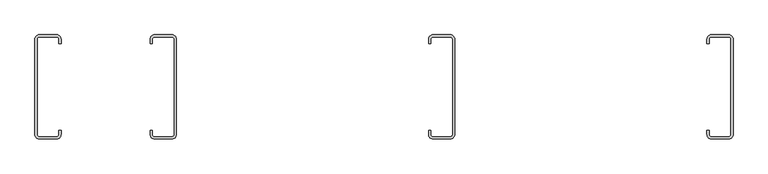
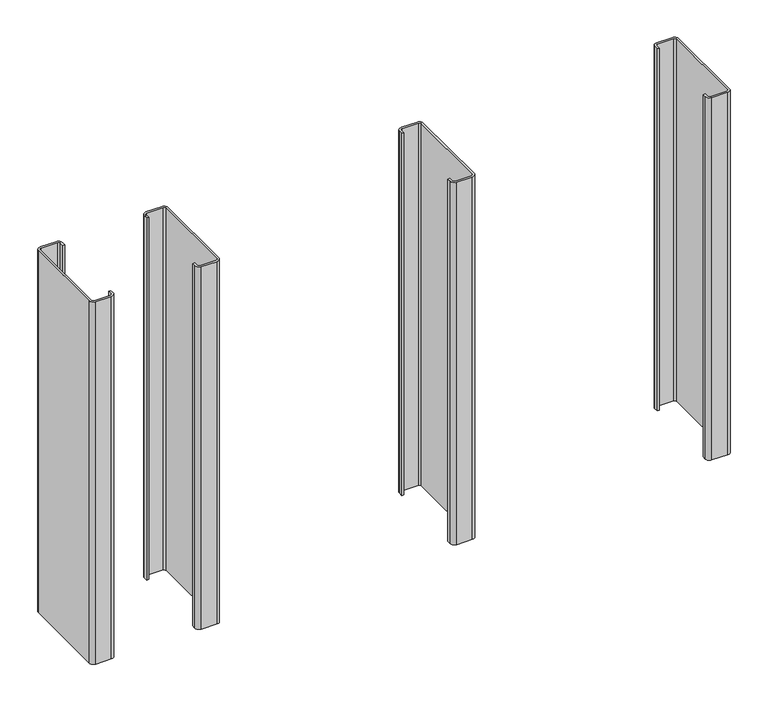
"""IFC4 building model written with IfcOpenShell, lengths in millimetres: proxy geometry, Durabond Generic Model Metal Stud Array Right : CRAi Generic Model Metal Stud Array."""

import ifcopenshell
import ifcopenshell.guid

model = None  # the IFC model being written
_history = None  # IfcOwnerHistory: only IFC2X3 demands one
_inside = {}  # id of a spatial element -> (the spatial element, [elements in it])
_under = {}  # id of a project, library or spatial element -> (it, [spatial elements below it])
_declared = {}  # id of a project -> (the project, [libraries it declares])
_typed = {}  # id of a type object -> (the type object, [elements of that type])
_made_of = {}  # id of a material, layer set ... -> (it, [elements and type objects made of it])


def new_model(schema):
    """Start an empty IFC model of exactly this schema.

    Asked for "IFC4X3", IfcOpenShell would pick the latest addendum, in which some entities
    have other attributes; the version numbers below select the first issue.
    IFC2X3 requires an IfcOwnerHistory on every rooted entity: one is made here for all.
    """
    global model, _history
    if schema == "IFC4X3":
        model = ifcopenshell.file(schema_version=(4, 3, 0, 0))
    else:
        model = ifcopenshell.file(schema=schema)
    _inside.clear()
    _under.clear()
    _declared.clear()
    _typed.clear()
    _made_of.clear()
    _history = None
    if model.schema == "IFC2X3":
        org = make("IfcOrganization", Name="unknown")
        user = make(
            "IfcPersonAndOrganization",
            ThePerson=make("IfcPerson", FamilyName="unknown"),
            TheOrganization=org,
        )
        app = make(
            "IfcApplication",
            ApplicationDeveloper=org,
            Version="unknown",
            ApplicationFullName="unknown",
            ApplicationIdentifier="unknown",
        )
        _history = make(
            "IfcOwnerHistory",
            OwningUser=user,
            OwningApplication=app,
            ChangeAction="ADDED",
            CreationDate=0,
        )
    return model


def make(cls, **values):
    """One entity of the class cls with the attributes given. An attribute that is None is left unset."""
    return model.create_entity(
        cls, **{name: value for name, value in values.items() if value is not None}
    )


def rooted(cls, **values):
    """An entity with a GlobalId (a new one), such as an element, a storey or a relation."""
    return make(cls, GlobalId=ifcopenshell.guid.new(), OwnerHistory=_history, **values)


def si_unit(unit_type, name, prefix=None):
    """IfcSIUnit, for example si_unit("LENGTHUNIT", "METRE", prefix="MILLI")."""
    return make("IfcSIUnit", UnitType=unit_type, Prefix=prefix, Name=name)


def assignment(units):
    """IfcUnitAssignment: the units of a project."""
    return None if units is None else make("IfcUnitAssignment", Units=units)


def point(xyz):
    """IfcCartesianPoint."""
    return None if xyz is None else make("IfcCartesianPoint", Coordinates=xyz)


def direction(xyz):
    """IfcDirection."""
    return None if xyz is None else make("IfcDirection", DirectionRatios=xyz)


def frame(location, z_axis=None, x_axis=None):
    """IfcAxis2Placement3D, a coordinate frame: its origin and axes. An axis left out is left unset."""
    return make(
        "IfcAxis2Placement3D",
        Location=point(location),
        Axis=direction(z_axis),
        RefDirection=direction(x_axis),
    )


def frame_2d(location, x_axis=None):
    """IfcAxis2Placement2D, a coordinate frame in the plane: its origin and x axis."""
    return make(
        "IfcAxis2Placement2D", Location=point(location), RefDirection=direction(x_axis)
    )


def origin():
    """The frame at (0, 0, 0) with its axes left unset."""
    return frame((0.0, 0.0, 0.0))


def origin_with_axes():
    """The frame at (0, 0, 0) with the z axis (0, 0, 1) and the x axis (1, 0, 0) written out."""
    return frame((0.0, 0.0, 0.0), z_axis=(0.0, 0.0, 1.0), x_axis=(1.0, 0.0, 0.0))


def place(relative_to, where):
    """IfcLocalPlacement: puts the frame where relative to a parent placement (None: the world)."""
    return make(
        "IfcLocalPlacement", PlacementRelTo=relative_to, RelativePlacement=where
    )


def context(
    kind, dimensions, precision=None, world=None, true_north=None, identifier=None
):
    """IfcGeometricRepresentationContext, for example the 3D "Model" context."""
    return make(
        "IfcGeometricRepresentationContext",
        ContextIdentifier=identifier,
        ContextType=kind,
        CoordinateSpaceDimension=dimensions,
        Precision=precision,
        WorldCoordinateSystem=world,
        TrueNorth=true_north,
    )


def project(units=None, contexts=None):
    """IfcProject with its units and contexts."""
    return rooted(
        "IfcProject",
        Name="project",
        RepresentationContexts=contexts,
        UnitsInContext=assignment(units),
    )


def spatial(cls, under=None, at=None, **own):
    """A site, building, storey or space (cls), placed at a placement, below another one or the project."""
    s = rooted(cls, ObjectPlacement=at, **own)
    if under is not None:
        _under.setdefault(under.id(), (under, []))[1].append(s)
    return s


def polyline(points):
    """IfcPolyline through the points."""
    return make("IfcPolyline", Points=[point(p) for p in points])


def circle_curve(where, radius):
    """IfcCircle in the frame where."""
    return make("IfcCircle", Position=where, Radius=radius)


def trimmed(basis, trim1, trim2, sense, master):
    """IfcTrimmedCurve: the piece of a basis curve between two trims."""
    return make(
        "IfcTrimmedCurve",
        BasisCurve=basis,
        Trim1=trim1,
        Trim2=trim2,
        SenseAgreement=sense,
        MasterRepresentation=master,
    )


def segment(curve, same_sense, transition):
    """IfcCompositeCurveSegment."""
    return make(
        "IfcCompositeCurveSegment",
        Transition=transition,
        SameSense=same_sense,
        ParentCurve=curve,
    )


def composite_curve(segments, self_intersect=None):
    """IfcCompositeCurve: segments joined end to end."""
    return make("IfcCompositeCurve", Segments=segments, SelfIntersect=self_intersect)


def outline(outer, holes=None, kind="AREA"):
    """IfcArbitraryClosedProfileDef: a profile drawn as a closed curve; with holes, ...WithVoids."""
    if holes is None:
        return make("IfcArbitraryClosedProfileDef", ProfileType=kind, OuterCurve=outer)
    return make(
        "IfcArbitraryProfileDefWithVoids",
        ProfileType=kind,
        OuterCurve=outer,
        InnerCurves=holes,
    )


def extrude(swept, where, along, depth):
    """IfcExtrudedAreaSolid: the profile swept, set in the frame where, extruded along a direction by depth."""
    return make(
        "IfcExtrudedAreaSolid",
        SweptArea=swept,
        Position=where,
        ExtrudedDirection=direction(along),
        Depth=depth,
    )


def shape(context_of_items, identifier, shape_type, items):
    """IfcShapeRepresentation: the items that make up one representation, for example the "Body"."""
    return make(
        "IfcShapeRepresentation",
        ContextOfItems=context_of_items,
        RepresentationIdentifier=identifier,
        RepresentationType=shape_type,
        Items=items,
    )


def source(mapping_origin, context_of_items, identifier, shape_type, items):
    """IfcRepresentationMap: a shape defined once, which mapped items show again and again."""
    return make(
        "IfcRepresentationMap",
        MappingOrigin=mapping_origin,
        MappedRepresentation=shape(context_of_items, identifier, shape_type, items),
    )


def transform(
    local_origin,
    x_axis=None,
    y_axis=None,
    z_axis=None,
    scale=None,
    scale2=None,
    scale3=None,
    uniform=True,
):
    """IfcCartesianTransformationOperator3D, or its non-uniform kind. x_axis, y_axis, z_axis: its Axis1, 2, 3."""
    if uniform:
        return make(
            "IfcCartesianTransformationOperator3D",
            Axis1=direction(x_axis),
            Axis2=direction(y_axis),
            LocalOrigin=point(local_origin),
            Scale=scale,
            Axis3=direction(z_axis),
        )
    return make(
        "IfcCartesianTransformationOperator3DnonUniform",
        Axis1=direction(x_axis),
        Axis2=direction(y_axis),
        LocalOrigin=point(local_origin),
        Scale=scale,
        Axis3=direction(z_axis),
        Scale2=scale2,
        Scale3=scale3,
    )


def mapped(mapping_source, mapping_target):
    """IfcMappedItem: shows the shape of a source again, moved by a transform."""
    return make(
        "IfcMappedItem", MappingSource=mapping_source, MappingTarget=mapping_target
    )


def made_of(thing, what):
    """Note that an element or type object is made of a material, layer set ...; save() writes the relation."""
    if what is not None:
        _made_of.setdefault(what.id(), (what, []))[1].append(thing)
    return thing


def element(
    cls,
    number,
    at=None,
    inside=None,
    cuts=None,
    type_object=None,
    material=None,
    context=None,
    identifier="Body",
    shape_type=None,
    held_by="IfcProductDefinitionShape",
    body=None,
    shapes=None,
    **own,
):
    """One element of the class cls, such as IfcWall. Its Tag is "e" and its number.

    at: its placement. inside: the storey or other place that contains it. cuts: it is an
    opening in that element (IfcRelVoidsElement). A single representation is given by context,
    identifier, shape_type and body (its items); several are given by shapes. held_by: the class
    of the entity that holds the representations. save() writes the other relations.
    """
    e = rooted(cls, Tag="e%d" % number, ObjectPlacement=at, **own)
    if body is not None:
        shapes = [shape(context, identifier, shape_type, body)]
    if shapes is not None:
        e.Representation = make(held_by, Representations=shapes)
    if inside is not None:
        _inside.setdefault(inside.id(), (inside, []))[1].append(e)
    if cuts is not None:
        rooted(
            "IfcRelVoidsElement", RelatingBuildingElement=cuts, RelatedOpeningElement=e
        )
    if type_object is not None:
        _typed.setdefault(type_object.id(), (type_object, []))[1].append(e)
    return made_of(e, material)


def aggregate(whole, parts):
    """IfcRelAggregates: a whole, such as a stair, and the parts it consists of."""
    return rooted("IfcRelAggregates", RelatingObject=whole, RelatedObjects=parts)


def save(model, path):
    """Write the relations noted so far, then the file.

    IfcRelAggregates (storeys below a building ...), IfcRelContainedInSpatialStructure (elements
    in a storey), IfcRelDefinesByType, IfcRelAssociatesMaterial and IfcRelDeclares: one each for
    every whole, place, type object, material and project.
    """
    for whole, parts in _under.values():
        aggregate(whole, parts)
    for where, things in _inside.values():
        rooted(
            "IfcRelContainedInSpatialStructure",
            RelatedElements=things,
            RelatingStructure=where,
        )
    for kind, things in _typed.values():
        rooted("IfcRelDefinesByType", RelatedObjects=things, RelatingType=kind)
    for what, things in _made_of.values():
        rooted("IfcRelAssociatesMaterial", RelatedObjects=things, RelatingMaterial=what)
    for by, libraries in _declared.values():
        rooted("IfcRelDeclares", RelatingContext=by, RelatedDefinitions=libraries)
    model.write(path)


def generic_models_b823fbf1(model_context):
    return source(origin(), model_context, "Body", "SweptSolid", [
        extrude(outline(composite_curve([segment(polyline([(1617.675, -63.5), (1620.85, -63.5), (1620.85, -70.2679713)]), True, "CONTINUOUS"), segment(trimmed(circle_curve(frame_2d((1624.025, -69.85)), 3.2023936), [point((1620.85, -70.2679713))], [point((1623.6070287, -73.025))], True, "CARTESIAN"), True, "CONTINUOUS"), segment(polyline([(1623.6070287, -73.025), (1649.8429713, -73.025)]), True, "CONTINUOUS"), segment(trimmed(circle_curve(frame_2d((1649.425, -69.85)), 3.2023936), [point((1649.8429713, -73.025))], [point((1652.6, -70.2679713))], True, "CARTESIAN"), True, "CONTINUOUS"), segment(polyline([(1652.6, -70.2679713), (1652.6, 70.2679713)]), True, "CONTINUOUS"), segment(trimmed(circle_curve(frame_2d((1649.425, 69.85)), 3.2023936), [point((1652.6, 70.2679713))], [point((1649.8429713, 73.025))], True, "CARTESIAN"), True, "CONTINUOUS"), segment(polyline([(1649.8429713, 73.025), (1623.6070287, 73.025)]), True, "CONTINUOUS"), segment(trimmed(circle_curve(frame_2d((1624.025, 69.85)), 3.2023936), [point((1623.6070287, 73.025))], [point((1620.85, 70.2679713))], True, "CARTESIAN"), True, "CONTINUOUS"), segment(polyline([(1620.85, 70.2679713), (1620.85, 63.5), (1617.675, 63.5), (1617.675, 69.85)]), True, "CONTINUOUS"), segment(trimmed(circle_curve(frame_2d((1624.025, 69.85)), 6.35), [point((1617.675, 69.85))], [point((1624.025, 76.2))], False, "CARTESIAN"), True, "CONTINUOUS"), segment(polyline([(1624.025, 76.2), (1649.425, 76.2)]), True, "CONTINUOUS"), segment(trimmed(circle_curve(frame_2d((1649.425, 69.85)), 6.35), [point((1649.425, 76.2))], [point((1655.775, 69.85))], False, "CARTESIAN"), True, "CONTINUOUS"), segment(polyline([(1655.775, 69.85), (1655.775, -69.85)]), True, "CONTINUOUS"), segment(trimmed(circle_curve(frame_2d((1649.425, -69.85)), 6.35), [point((1655.775, -69.85))], [point((1649.425, -76.2))], False, "CARTESIAN"), True, "CONTINUOUS"), segment(polyline([(1649.425, -76.2), (1624.025, -76.2)]), True, "CONTINUOUS"), segment(trimmed(circle_curve(frame_2d((1624.025, -69.85)), 6.35), [point((1624.025, -76.2))], [point((1617.675, -69.85))], False, "CARTESIAN"), True, "CONTINUOUS"), segment(polyline([(1617.675, -69.85), (1617.675, -63.5)]), True, "CONTINUOUS")], self_intersect=False)), origin_with_axes(), (0.0, 0.0, 1.0), 609.6),
        extrude(outline(composite_curve([segment(polyline([(2024.075, -63.5), (2027.25, -63.5), (2027.25, -70.2679713)]), True, "CONTINUOUS"), segment(trimmed(circle_curve(frame_2d((2030.425, -69.85)), 3.2023936), [point((2027.25, -70.2679713))], [point((2030.0070287, -73.025))], True, "CARTESIAN"), True, "CONTINUOUS"), segment(polyline([(2030.0070287, -73.025), (2056.2429713, -73.025)]), True, "CONTINUOUS"), segment(trimmed(circle_curve(frame_2d((2055.825, -69.85)), 3.2023936), [point((2056.2429713, -73.025))], [point((2059.0, -70.2679713))], True, "CARTESIAN"), True, "CONTINUOUS"), segment(polyline([(2059.0, -70.2679713), (2059.0, 70.2679713)]), True, "CONTINUOUS"), segment(trimmed(circle_curve(frame_2d((2055.825, 69.85)), 3.2023936), [point((2059.0, 70.2679713))], [point((2056.2429713, 73.025))], True, "CARTESIAN"), True, "CONTINUOUS"), segment(polyline([(2056.2429713, 73.025), (2030.0070287, 73.025)]), True, "CONTINUOUS"), segment(trimmed(circle_curve(frame_2d((2030.425, 69.85)), 3.2023936), [point((2030.0070287, 73.025))], [point((2027.25, 70.2679713))], True, "CARTESIAN"), True, "CONTINUOUS"), segment(polyline([(2027.25, 70.2679713), (2027.25, 63.5), (2024.075, 63.5), (2024.075, 69.85)]), True, "CONTINUOUS"), segment(trimmed(circle_curve(frame_2d((2030.425, 69.85)), 6.35), [point((2024.075, 69.85))], [point((2030.425, 76.2))], False, "CARTESIAN"), True, "CONTINUOUS"), segment(polyline([(2030.425, 76.2), (2055.825, 76.2)]), True, "CONTINUOUS"), segment(trimmed(circle_curve(frame_2d((2055.825, 69.85)), 6.35), [point((2055.825, 76.2))], [point((2062.175, 69.85))], False, "CARTESIAN"), True, "CONTINUOUS"), segment(polyline([(2062.175, 69.85), (2062.175, -69.85)]), True, "CONTINUOUS"), segment(trimmed(circle_curve(frame_2d((2055.825, -69.85)), 6.35), [point((2062.175, -69.85))], [point((2055.825, -76.2))], False, "CARTESIAN"), True, "CONTINUOUS"), segment(polyline([(2055.825, -76.2), (2030.425, -76.2)]), True, "CONTINUOUS"), segment(trimmed(circle_curve(frame_2d((2030.425, -69.85)), 6.35), [point((2030.425, -76.2))], [point((2024.075, -69.85))], False, "CARTESIAN"), True, "CONTINUOUS"), segment(polyline([(2024.075, -69.85), (2024.075, -63.5)]), True, "CONTINUOUS")], self_intersect=False)), origin_with_axes(), (0.0, 0.0, 1.0), 609.6),
        extrude(outline(composite_curve([segment(polyline([(2430.475, -63.5), (2433.65, -63.5), (2433.65, -70.2679713)]), True, "CONTINUOUS"), segment(trimmed(circle_curve(frame_2d((2436.825, -69.85)), 3.2023936), [point((2433.65, -70.2679713))], [point((2436.4070287, -73.025))], True, "CARTESIAN"), True, "CONTINUOUS"), segment(polyline([(2436.4070287, -73.025), (2462.6429713, -73.025)]), True, "CONTINUOUS"), segment(trimmed(circle_curve(frame_2d((2462.225, -69.85)), 3.2023936), [point((2462.6429713, -73.025))], [point((2465.4, -70.2679713))], True, "CARTESIAN"), True, "CONTINUOUS"), segment(polyline([(2465.4, -70.2679713), (2465.4, 70.2679713)]), True, "CONTINUOUS"), segment(trimmed(circle_curve(frame_2d((2462.225, 69.85)), 3.2023936), [point((2465.4, 70.2679713))], [point((2462.6429713, 73.025))], True, "CARTESIAN"), True, "CONTINUOUS"), segment(polyline([(2462.6429713, 73.025), (2436.4070287, 73.025)]), True, "CONTINUOUS"), segment(trimmed(circle_curve(frame_2d((2436.825, 69.85)), 3.2023936), [point((2436.4070287, 73.025))], [point((2433.65, 70.2679713))], True, "CARTESIAN"), True, "CONTINUOUS"), segment(polyline([(2433.65, 70.2679713), (2433.65, 63.5), (2430.475, 63.5), (2430.475, 69.85)]), True, "CONTINUOUS"), segment(trimmed(circle_curve(frame_2d((2436.825, 69.85)), 6.35), [point((2430.475, 69.85))], [point((2436.825, 76.2))], False, "CARTESIAN"), True, "CONTINUOUS"), segment(polyline([(2436.825, 76.2), (2462.225, 76.2)]), True, "CONTINUOUS"), segment(trimmed(circle_curve(frame_2d((2462.225, 69.85)), 6.35), [point((2462.225, 76.2))], [point((2468.575, 69.85))], False, "CARTESIAN"), True, "CONTINUOUS"), segment(polyline([(2468.575, 69.85), (2468.575, -69.85)]), True, "CONTINUOUS"), segment(trimmed(circle_curve(frame_2d((2462.225, -69.85)), 6.35), [point((2468.575, -69.85))], [point((2462.225, -76.2))], False, "CARTESIAN"), True, "CONTINUOUS"), segment(polyline([(2462.225, -76.2), (2436.825, -76.2)]), True, "CONTINUOUS"), segment(trimmed(circle_curve(frame_2d((2436.825, -69.85)), 6.35), [point((2436.825, -76.2))], [point((2430.475, -69.85))], False, "CARTESIAN"), True, "CONTINUOUS"), segment(polyline([(2430.475, -69.85), (2430.475, -63.5)]), True, "CONTINUOUS")], self_intersect=False)), origin_with_axes(), (0.0, 0.0, 1.0), 609.6),
        extrude(outline(composite_curve([segment(polyline([(1487.5, 63.5), (1484.325, 63.5), (1484.325, 70.2679713)]), True, "CONTINUOUS"), segment(trimmed(circle_curve(frame_2d((1481.15, 69.85)), 3.2023936), [point((1484.325, 70.2679713))], [point((1481.5679713, 73.025))], True, "CARTESIAN"), True, "CONTINUOUS"), segment(polyline([(1481.5679713, 73.025), (1455.3320287, 73.025)]), True, "CONTINUOUS"), segment(trimmed(circle_curve(frame_2d((1455.75, 69.85)), 3.2023936), [point((1455.3320287, 73.025))], [point((1452.575, 70.2679713))], True, "CARTESIAN"), True, "CONTINUOUS"), segment(polyline([(1452.575, 70.2679713), (1452.575, -70.2679713)]), True, "CONTINUOUS"), segment(trimmed(circle_curve(frame_2d((1455.75, -69.85)), 3.2023936), [point((1452.575, -70.2679713))], [point((1455.3320287, -73.025))], True, "CARTESIAN"), True, "CONTINUOUS"), segment(polyline([(1455.3320287, -73.025), (1481.5679713, -73.025)]), True, "CONTINUOUS"), segment(trimmed(circle_curve(frame_2d((1481.15, -69.85)), 3.2023936), [point((1481.5679713, -73.025))], [point((1484.325, -70.2679713))], True, "CARTESIAN"), True, "CONTINUOUS"), segment(polyline([(1484.325, -70.2679713), (1484.325, -63.5), (1487.5, -63.5), (1487.5, -69.85)]), True, "CONTINUOUS"), segment(trimmed(circle_curve(frame_2d((1481.15, -69.85)), 6.35), [point((1487.5, -69.85))], [point((1481.15, -76.2))], False, "CARTESIAN"), True, "CONTINUOUS"), segment(polyline([(1481.15, -76.2), (1455.75, -76.2)]), True, "CONTINUOUS"), segment(trimmed(circle_curve(frame_2d((1455.75, -69.85)), 6.35), [point((1455.75, -76.2))], [point((1449.4, -69.85))], False, "CARTESIAN"), True, "CONTINUOUS"), segment(polyline([(1449.4, -69.85), (1449.4, 69.85)]), True, "CONTINUOUS"), segment(trimmed(circle_curve(frame_2d((1455.75, 69.85)), 6.35), [point((1449.4, 69.85))], [point((1455.75, 76.2))], False, "CARTESIAN"), True, "CONTINUOUS"), segment(polyline([(1455.75, 76.2), (1481.15, 76.2)]), True, "CONTINUOUS"), segment(trimmed(circle_curve(frame_2d((1481.15, 69.85)), 6.35), [point((1481.15, 76.2))], [point((1487.5, 69.85))], False, "CARTESIAN"), True, "CONTINUOUS"), segment(polyline([(1487.5, 69.85), (1487.5, 63.5)]), True, "CONTINUOUS")], self_intersect=False)), origin_with_axes(), (0.0, 0.0, 1.0), 609.6),
    ])


if __name__ == "__main__":
    model = new_model("IFC4")
    model_context = context("Model", 3, world=origin())
    ifc_project = project(units=[si_unit("LENGTHUNIT", "METRE", prefix="MILLI")], contexts=[model_context])
    site = spatial("IfcSite", under=ifc_project)
    building = spatial("IfcBuilding", under=site)
    placement = place(None, origin())
    generic_models_shape = generic_models_b823fbf1(model_context)
    element("IfcBuildingElementProxy", 1, Name="Durabond Generic Model Metal Stud Array Right : CRAi Generic Model Metal Stud Array", ObjectType="Durabond Generic Model Metal Stud Array Right : CRAi Generic Model Metal Stud Array", at=placement, inside=building, context=model_context, shape_type="MappedRepresentation", body=[
        mapped(generic_models_shape, transform((0.0, 0.0, 0.0), x_axis=(1.0, 0.0, 0.0), y_axis=(0.0, 1.0, 0.0), z_axis=(0.0, 0.0, 1.0))),
    ])
    save(model, "model.ifc")
